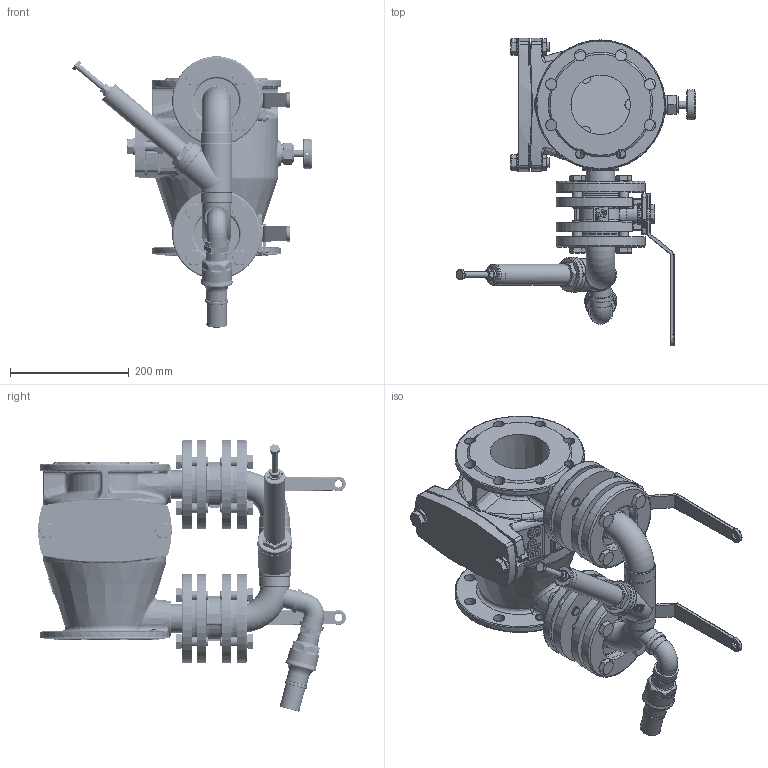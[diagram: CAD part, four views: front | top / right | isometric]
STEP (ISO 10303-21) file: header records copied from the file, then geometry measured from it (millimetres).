
FILE_DESCRIPTION((''),'2;1');
FILE_NAME('Z:\Kunder\BPS\BPS Produkter\BPS 6504\DN 100\6504100.stp','2012-09-05T10:29:55',('Account'),(''),'Autodesk Inventor 2013','Autodesk Inventor 2013','');
FILE_SCHEMA(('AUTOMOTIVE_DESIGN { 1 0 10303 214 1 1 1 1 }'));
Length unit declared in the file: millimetre
Products named in the file (1): Part3
Bounding box: 403.01 x 518.28 x 456.89 mm (x, y, z)
Volume: 200126.8 mm3; surface area: 1357177.7 mm2
Topology: 12 solids, 25 shells, 4502 faces, 11371 edges, 7214 vertices
Faces by surface type: plane 2224, bspline 853, cylinder 751, cone 382, torus 242, sphere 50
Full cylindrical faces by diameter (mm): 3.242 x1, 4 x4, 5 x1, 8 x4, 10 x7, 10.1 x1, 12 x4, 12.1 x2, 12.5 x2, 13.835 x2, 14.4 x1, 14.5 x4, 14.63 x1, 15 x1, 15.6 x2, 16 x42, 16.5 x1, 16.8 x1, 17 x2, 17.5 x16, 18.5 x2, 19 x14, 20 x1, 21 x2, 22.49 x18, 23 x1, 24 x3, 24.2 x1, 25 x1, 26.441 x1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
Entity records: 175658 total; most frequent: CARTESIAN_POINT 71253, ORIENTED_EDGE 21564, DIRECTION 18850, EDGE_CURVE 10794, AXIS2_PLACEMENT_3D 7145, VERTEX_POINT 7061, EDGE_LOOP 5393, VECTOR 4560
